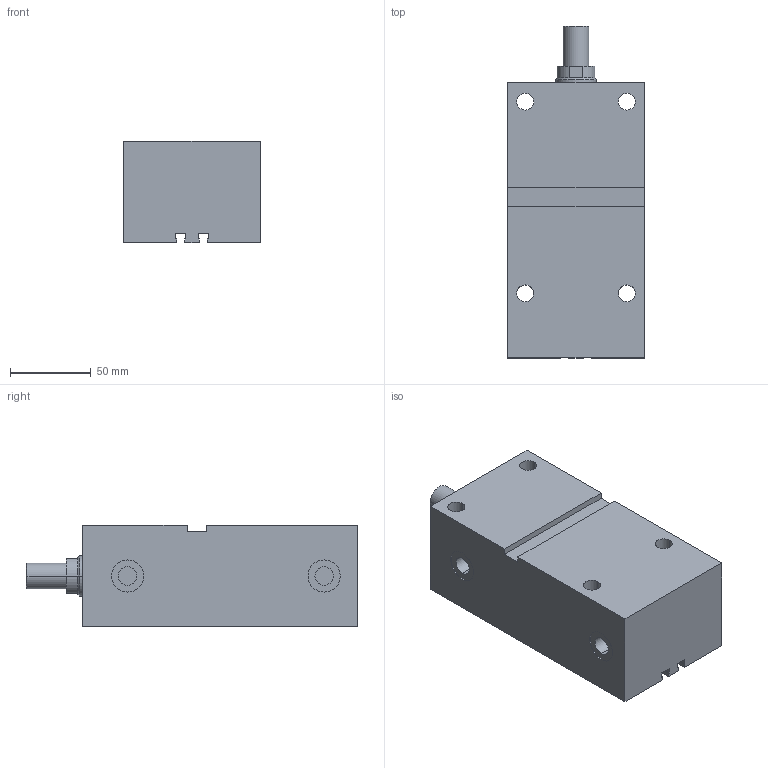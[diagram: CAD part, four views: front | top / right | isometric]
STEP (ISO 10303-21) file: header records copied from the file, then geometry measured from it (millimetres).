
FILE_DESCRIPTION (( 'STEP AP203' ), '1' );
FILE_NAME ('GERMA_Blockzylinder_701-040-100-A.STEP', '2016-07-23T10:11:43', ( '' ), ( '' ), 'SwSTEP 2.0', 'SolidWorks 2015', '' );
FILE_SCHEMA (( 'CONFIG_CONTROL_DESIGN' ));
Length unit declared in the file: millimetre
Products named in the file (3): GH-700-040_GH-701-040-100; Kolben_MT 70x-040_Kolben_MT DU.40-Hub100-AG; GERMA_Blockzylinder_701-040-100-A
Assembly tree (2 placements, depth 2):
  GERMA_Blockzylinder_701-040-100-A
    GH-700-040_GH-701-040-100
    Kolben_MT 70x-040_Kolben_MT DU.40-Hub100-AG
Bounding box: 85 x 206 x 63 mm (x, y, z)
Volume: 807794.2 mm3; surface area: 112432.3 mm2
Topology: 2 solids, 2 shells, 92 faces, 216 edges, 137 vertices
Faces by surface type: plane 43, cylinder 37, cone 12
Entity records: 2938 total; most frequent: DIRECTION 491, CARTESIAN_POINT 446, ORIENTED_EDGE 424, EDGE_CURVE 212, AXIS2_PLACEMENT_3D 182, VERTEX_POINT 137, LINE 127, VECTOR 127
